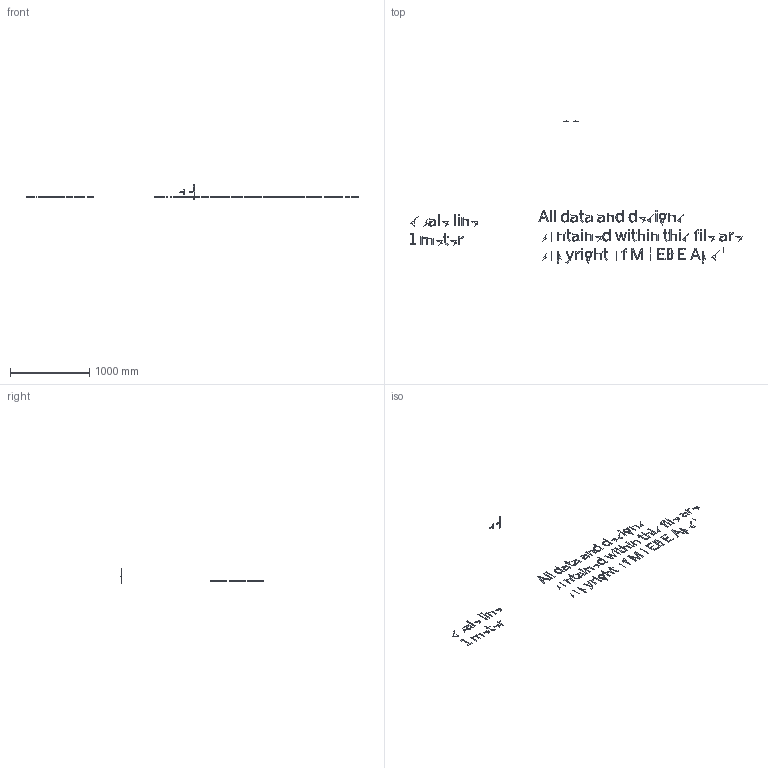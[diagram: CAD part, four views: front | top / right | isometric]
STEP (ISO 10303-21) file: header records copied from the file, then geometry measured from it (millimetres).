
FILE_DESCRIPTION(/* description */ (''),/* implementation_level */ '2;1');
FILE_NAME(/* name */ 'WALL-HOOK-3D_XX 001',/* time_stamp */ '2020-04-15T12:10:44+02:00',/* author */ (''),/* organization */ (''),/* preprocessor_version */ 'ST-DEVELOPER v16.5',/* originating_system */ '',/* authorisation */ '');
FILE_SCHEMA (('AUTOMOTIVE_DESIGN'));
Length unit declared in the file: millimetre
Products named in the file (1): Document
Bounding box: 4198.58 x 1800.08 x 182 mm (x, y, z)
Volume: 296076.7 mm3; surface area: 623514.4 mm2
Topology: 90 solids, 90 shells, 1178 faces, 2853 edges, 1852 vertices
Faces by surface type: plane 666, bspline 512
Entity records: 40766 total; most frequent: CARTESIAN_POINT 21228, ORIENTED_EDGE 5692, EDGE_CURVE 2846, B_SPLINE_CURVE_WITH_KNOTS 2737, VERTEX_POINT 1850, EDGE_LOOP 1246, ADVANCED_FACE 1178, FACE_OUTER_BOUND 1178
